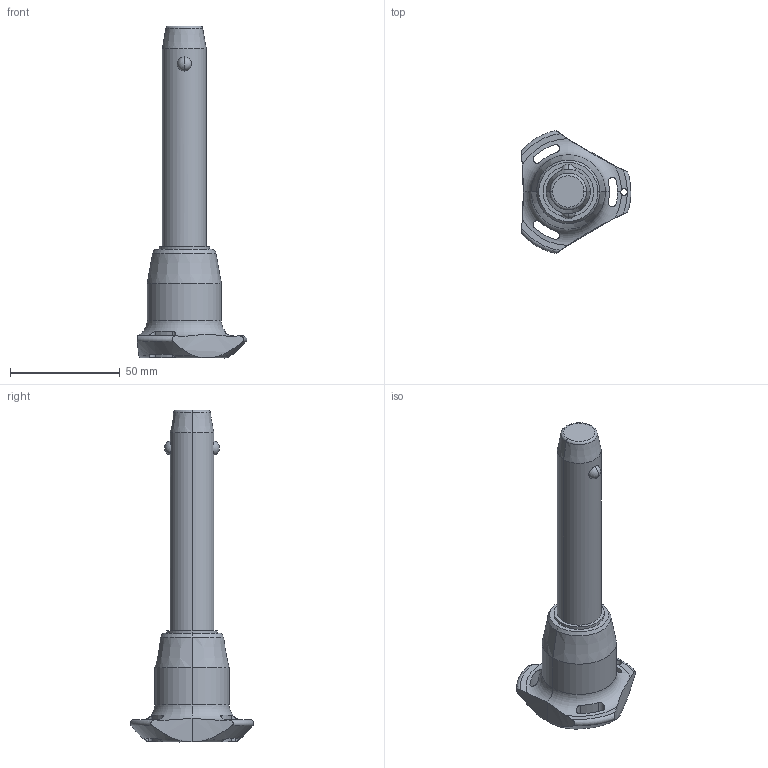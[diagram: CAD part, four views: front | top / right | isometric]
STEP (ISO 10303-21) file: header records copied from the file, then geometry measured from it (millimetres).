
FILE_DESCRIPTION (( 'STEP AP203' ), '1' );
FILE_NAME ('QR1724.M20-080-S.step', '2025-11-12T13:08:03', ( '' ), ( '' ), 'SwSTEP 2.0', 'SolidWorks 2019', '' );
FILE_SCHEMA (( 'CONFIG_CONTROL_DESIGN' ));
Length unit declared in the file: millimetre
Products named in the file (1): QR1724.M20-080-S
Bounding box: 50.04 x 56.02 x 151.2 mm (x, y, z)
Volume: 78909.7 mm3; surface area: 15993.8 mm2
Topology: 1 solids, 1 shells, 65 faces, 176 edges, 111 vertices
Faces by surface type: cylinder 30, cone 14, torus 11, sphere 6, plane 4
Entity records: 2858 total; most frequent: CARTESIAN_POINT 1179, ORIENTED_EDGE 352, DIRECTION 329, EDGE_CURVE 176, AXIS2_PLACEMENT_3D 147, VERTEX_POINT 111, CIRCLE 81, EDGE_LOOP 71
